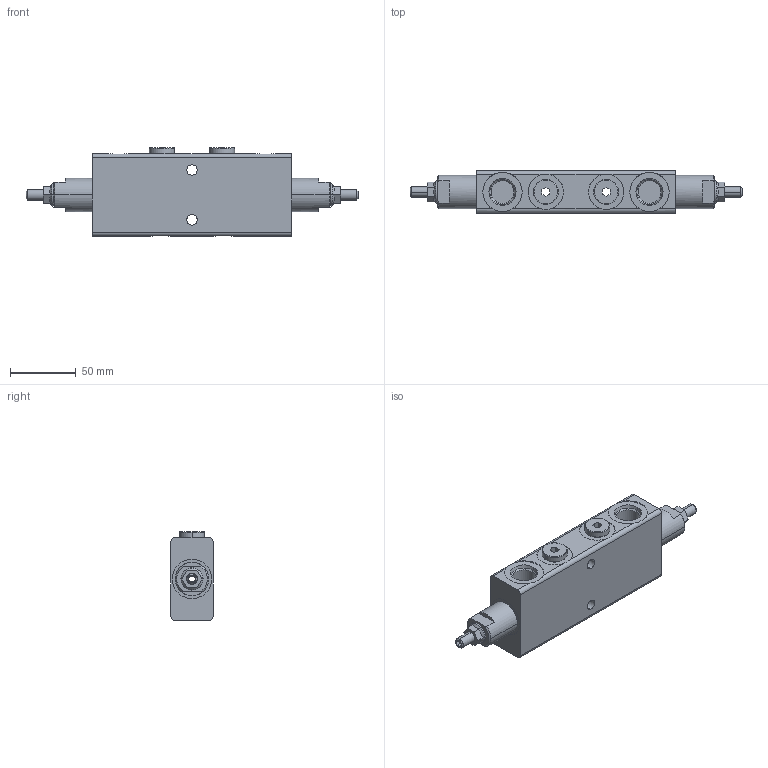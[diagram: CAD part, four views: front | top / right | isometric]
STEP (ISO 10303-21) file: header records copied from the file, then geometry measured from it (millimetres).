
FILE_DESCRIPTION (( 'STEP AP214' ), '1' );
FILE_NAME ('VCD34004.STEP', '2025-05-15T23:25:15', ( '' ), ( '' ), 'SwSTEP 2.0', 'SolidWorks 2023', '' );
FILE_SCHEMA (( 'AUTOMOTIVE_DESIGN' ));
Length unit declared in the file: millimetre
Products named in the file (1): VCD34004
Bounding box: 252.95 x 32 x 67.5 mm (x, y, z)
Surface area: 46038.8 mm2 (no closed solid volume)
Topology: 0 solids, 9 shells, 170 faces, 452 edges, 294 vertices
Faces by surface type: plane 72, cylinder 48, cone 34, torus 16
Entity records: 5670 total; most frequent: CARTESIAN_POINT 1389, DIRECTION 932, ORIENTED_EDGE 832, EDGE_CURVE 452, AXIS2_PLACEMENT_3D 357, VERTEX_POINT 294, VECTOR 218, LINE 218
